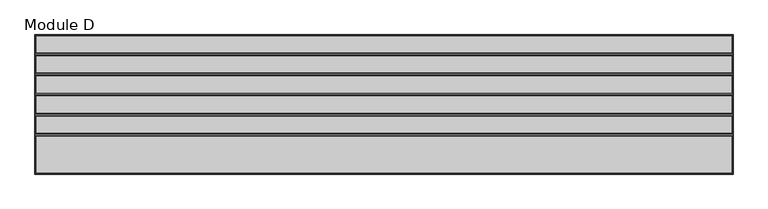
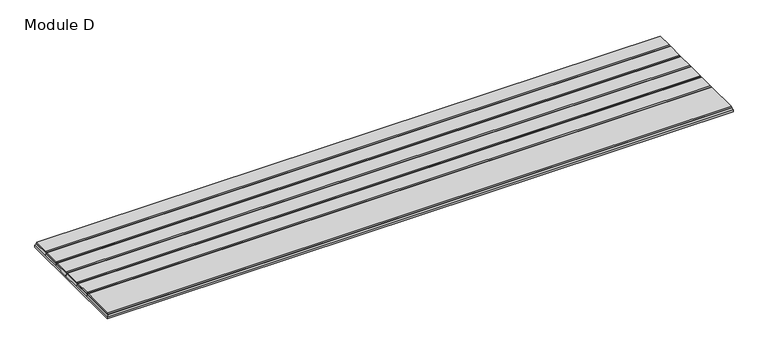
"""IFC4 building model written with IfcOpenShell, lengths in millimetres: proxy geometry, FilzFelt_Gap : Module D."""

from ifc_helpers import new_model, si_unit, origin, place, context, project, spatial, faceted_brep, source, transform, mapped, element, save


def module_d_57ad0258(model_context):
    return source(origin(), model_context, "Body", "Brep", [
        faceted_brep([(-760.095, -150.495, 9.525), (760.095, -150.495, 9.525), (760.095, -67.2192857, 9.525), (-760.095, -67.2192857, 9.525), (760.095, 150.495, 9.525), (-760.095, 150.495, 9.525), (-760.095, 110.7621429, 9.525), (760.095, 110.7621429, 9.525), (760.095, 67.2192857, 9.525), (760.095, 106.9521429, 9.525), (-760.095, 106.9521429, 9.525), (-760.095, 67.2192857, 9.525), (760.095, 23.6764286, 9.525), (760.095, 63.4092857, 9.525), (-760.095, 63.4092857, 9.525), (-760.095, 23.6764286, 9.525), (760.095, -19.8664286, 9.525), (760.095, 19.8664286, 9.525), (-760.095, 19.8664286, 9.525), (-760.095, -19.8664286, 9.525), (760.095, -63.4092857, 9.525), (760.095, -23.6764286, 9.525), (-760.095, -23.6764286, 9.525), (-760.095, -63.4092857, 9.525), (762.0, 152.4, 0.0), (762.0, -152.4, 0.0), (-762.0, -152.4, 0.0), (-762.0, 152.4, 0.0), (-762.0, 152.4, 4.7625), (762.0, 152.4, 4.7625), (-762.0, -152.4, 4.7625), (-762.0, -65.3142857, 4.7625), (-762.0, -21.7714286, 4.7625), (-762.0, 21.7714286, 4.7625), (-762.0, 65.3142857, 4.7625), (-762.0, 108.8571429, 4.7625), (762.0, -152.4, 4.7625), (762.0, 108.8571429, 4.7625), (762.0, 65.3142857, 4.7625), (762.0, 21.7714286, 4.7625), (762.0, -21.7714286, 4.7625), (762.0, -65.3142857, 4.7625)], [[[0, 1, 2, 3]], [[4, 5, 6, 7]], [[8, 9, 10, 11]], [[12, 13, 14, 15]], [[16, 17, 18, 19]], [[20, 21, 22, 23]], [[24, 25, 26, 27]], [[24, 27, 28, 29]], [[27, 26, 30, 31, 32, 33, 34, 35, 28]], [[26, 25, 36, 30]], [[25, 24, 29, 37, 38, 39, 40, 41, 36]], [[9, 8, 38, 37]], [[13, 12, 39, 38]], [[17, 16, 40, 39]], [[21, 20, 41, 40]], [[1, 36, 41, 2]], [[29, 4, 7, 37]], [[36, 1, 0, 30]], [[11, 10, 35, 34]], [[15, 14, 34, 33]], [[19, 18, 33, 32]], [[23, 22, 32, 31]], [[30, 0, 3, 31]], [[5, 28, 35, 6]], [[28, 5, 4, 29]], [[35, 37, 7, 6]], [[37, 35, 10, 9]], [[34, 38, 8, 11]], [[38, 34, 14, 13]], [[33, 39, 12, 15]], [[39, 33, 18, 17]], [[32, 40, 16, 19]], [[40, 32, 22, 21]], [[31, 41, 20, 23]], [[41, 31, 3, 2]]]),
        faceted_brep([(760.095, -150.495, 9.525), (-760.095, -150.495, 9.525), (-760.095, -67.2192857, 9.525), (760.095, -67.2192857, 9.525), (-758.825, -149.225, 12.7), (758.825, -149.225, 12.7), (758.825, -68.4892857, 12.7), (-758.825, -68.4892857, 12.7)], [[[0, 1, 2, 3]], [[4, 5, 6, 7]], [[5, 0, 3, 6]], [[0, 5, 4, 1]], [[1, 4, 7, 2]], [[3, 2, 7, 6]]]),
        faceted_brep([(-760.095, 150.495, 9.525), (760.095, 150.495, 9.525), (760.095, 110.7621429, 9.525), (-760.095, 110.7621429, 9.525), (758.825, 149.225, 12.7), (-758.825, 149.225, 12.7), (-758.825, 112.0321429, 12.7), (758.825, 112.0321429, 12.7)], [[[0, 1, 2, 3]], [[4, 5, 6, 7]], [[1, 4, 7, 2]], [[5, 0, 3, 6]], [[0, 5, 4, 1]], [[3, 2, 7, 6]]]),
        faceted_brep([(760.095, 106.9521429, 9.525), (760.095, 67.2192857, 9.525), (-760.095, 67.2192857, 9.525), (-760.095, 106.9521429, 9.525), (758.825, 68.4892857, 12.7), (758.825, 105.6821429, 12.7), (-758.825, 105.6821429, 12.7), (-758.825, 68.4892857, 12.7)], [[[0, 1, 2, 3]], [[4, 5, 6, 7]], [[1, 0, 5, 4]], [[3, 2, 7, 6]], [[0, 3, 6, 5]], [[2, 1, 4, 7]]]),
        faceted_brep([(760.095, 63.4092857, 9.525), (760.095, 23.6764286, 9.525), (-760.095, 23.6764286, 9.525), (-760.095, 63.4092857, 9.525), (758.825, 24.9464286, 12.7), (758.825, 62.1392857, 12.7), (-758.825, 62.1392857, 12.7), (-758.825, 24.9464286, 12.7)], [[[0, 1, 2, 3]], [[4, 5, 6, 7]], [[1, 0, 5, 4]], [[3, 2, 7, 6]], [[0, 3, 6, 5]], [[2, 1, 4, 7]]]),
        faceted_brep([(760.095, 19.8664286, 9.525), (760.095, -19.8664286, 9.525), (-760.095, -19.8664286, 9.525), (-760.095, 19.8664286, 9.525), (758.825, -18.5964286, 12.7), (758.825, 18.5964286, 12.7), (-758.825, 18.5964286, 12.7), (-758.825, -18.5964286, 12.7)], [[[0, 1, 2, 3]], [[4, 5, 6, 7]], [[1, 0, 5, 4]], [[3, 2, 7, 6]], [[0, 3, 6, 5]], [[2, 1, 4, 7]]]),
        faceted_brep([(760.095, -23.6764286, 9.525), (760.095, -63.4092857, 9.525), (-760.095, -63.4092857, 9.525), (-760.095, -23.6764286, 9.525), (758.825, -62.1392857, 12.7), (758.825, -24.9464286, 12.7), (-758.825, -24.9464286, 12.7), (-758.825, -62.1392857, 12.7)], [[[0, 1, 2, 3]], [[4, 5, 6, 7]], [[1, 0, 5, 4]], [[3, 2, 7, 6]], [[0, 3, 6, 5]], [[2, 1, 4, 7]]]),
    ])


if __name__ == "__main__":
    model = new_model("IFC4")
    model_context = context("Model", 3, world=origin())
    ifc_project = project(units=[si_unit("LENGTHUNIT", "METRE", prefix="MILLI")], contexts=[model_context])
    site = spatial("IfcSite", under=ifc_project)
    building = spatial("IfcBuilding", under=site)
    placement = place(None, origin())
    module_d_shape = module_d_57ad0258(model_context)
    element("IfcBuildingElementProxy", 1, Name="FilzFelt_Gap : Module D", ObjectType="FilzFelt_Gap : Module D", at=placement, inside=building, context=model_context, shape_type="MappedRepresentation", body=[
        mapped(module_d_shape, transform((0.0, 0.0, 0.0), x_axis=(1.0, 0.0, 0.0), y_axis=(0.0, 1.0, 0.0), z_axis=(0.0, 0.0, 1.0))),
    ])
    save(model, "model.ifc")
